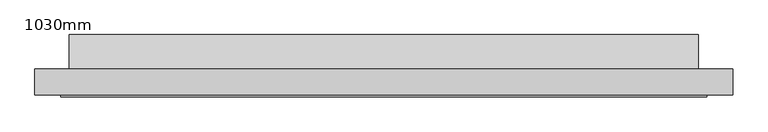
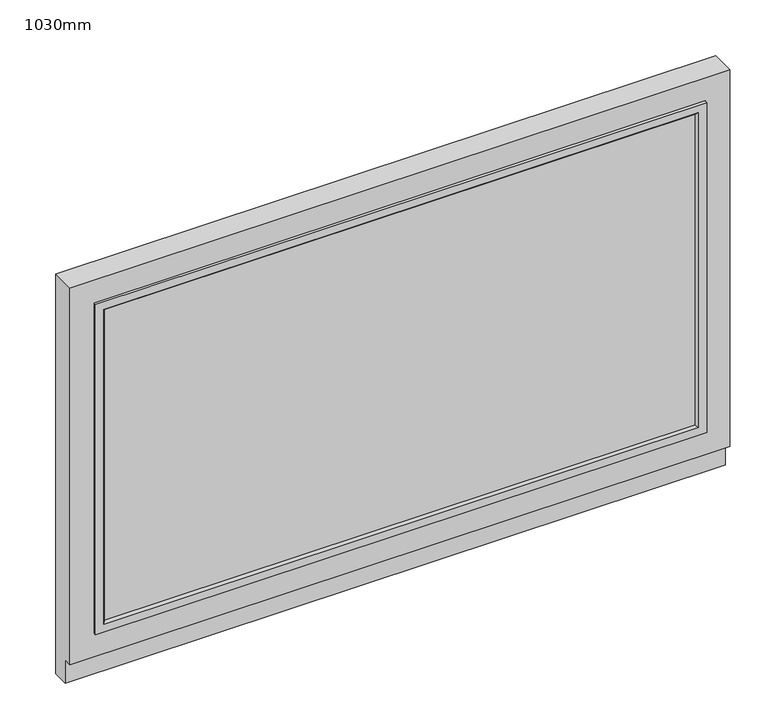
"""IFC4 building model written with IfcOpenShell, lengths in millimetres: proxy geometry, 電視 (2)-電漿 : 1030mm."""

from ifc_helpers import new_model, si_unit, frame, origin, place, context, project, spatial, polyline, outline, extrude, faceted_brep, source, transform, mapped, element, save


def proxy_1030mm_ae075e29(model_context):
    return source(origin(), model_context, "Body", "SolidModel", [
        faceted_brep([(572.15, -50.9, 660.0), (-457.85, -50.9, 660.0), (-457.85, -89.0, 660.0), (572.15, -89.0, 660.0), (-457.85, -50.9, 0.0), (572.15, -50.9, 0.0), (572.15, -76.3, 0.0), (-457.85, -76.3, 0.0), (-457.85, -76.3, 38.1), (-457.85, -89.0, 38.1), (572.15, -89.0, 38.1), (534.05, -89.0, 621.9), (534.05, -89.0, 76.2), (-419.75, -89.0, 76.2), (-419.75, -89.0, 621.9), (572.15, -76.3, 38.1), (534.05, -74.2720413, 621.9), (-419.75, -74.2720413, 621.9), (-419.75, -74.2720413, 76.2), (534.05, -74.2720413, 76.2)], [[[0, 1, 2, 3]], [[4, 5, 6, 7]], [[1, 0, 5, 4]], [[2, 1, 4, 7, 8, 9]], [[3, 2, 9, 10], [11, 12, 13, 14]], [[0, 3, 10, 15, 6, 5]], [[16, 17, 18, 19]], [[16, 19, 12, 11]], [[19, 18, 13, 12]], [[18, 17, 14, 13]], [[17, 16, 11, 14]], [[15, 8, 7, 6]], [[8, 15, 10, 9]]]),
        faceted_brep([(518.175, -89.0, 92.075), (521.35, -92.175, 88.9), (521.35, -92.175, 608.40625), (518.175, -89.0, 605.23125), (521.35, -74.2720413, 88.9), (521.35, -89.0, 88.9), (521.35, -89.0, 608.40625), (521.35, -74.2720413, 608.40625), (534.05, -92.175, 76.2), (534.05, -74.2720413, 76.2), (534.05, -74.2720413, 621.10625), (534.05, -92.175, 621.10625), (-407.05, -92.175, 608.40625), (-403.875, -89.0, 605.23125), (-407.05, -89.0, 608.40625), (-407.05, -74.2720413, 608.40625), (-419.75, -74.2720413, 621.10625), (-419.75, -92.175, 621.10625), (-407.05, -92.175, 88.9), (-403.875, -89.0, 92.075), (-407.05, -89.0, 88.9), (-407.05, -74.2720413, 88.9), (-419.75, -74.2720413, 76.2), (-419.75, -92.175, 76.2)], [[[0, 1, 2, 3]], [[4, 5, 6, 7]], [[8, 9, 10, 11]], [[3, 2, 12, 13]], [[7, 6, 14, 15]], [[11, 10, 16, 17]], [[13, 12, 18, 19]], [[15, 14, 20, 21]], [[17, 16, 22, 23]], [[11, 17, 23, 8], [1, 18, 12, 2]], [[19, 18, 1, 0]], [[5, 20, 14, 6], [3, 13, 19, 0]], [[21, 20, 5, 4]], [[9, 22, 16, 10], [7, 15, 21, 4]], [[23, 22, 9, 8]]]),
        extrude(outline(polyline([(521.35, -89.0), (-407.05, -89.0), (-407.05, -74.2720413), (521.35, -74.2720413), (521.35, -89.0)])), frame((0.0, 0.0, 88.9), z_axis=(0.0, 0.0, 1.0), x_axis=(1.0, 0.0, 0.0)), (0.0, 0.0, 1.0), 520.3),
        extrude(outline(polyline([(0.0, 574.4688953), (0.0, 38.1), (-50.9, 38.1), (-50.9, 609.2), (0.0, 574.4688953)])), frame((-407.05, 0.0, 0.0), z_axis=(1.0, 0.0, 0.0), x_axis=(0.0, 1.0, 0.0)), (0.0, 0.0, 1.0), 928.4),
    ])


if __name__ == "__main__":
    model = new_model("IFC4")
    model_context = context("Model", 3, world=origin())
    ifc_project = project(units=[si_unit("LENGTHUNIT", "METRE", prefix="MILLI")], contexts=[model_context])
    site = spatial("IfcSite", under=ifc_project)
    building = spatial("IfcBuilding", under=site)
    placement = place(None, origin())
    proxy_1030mm_shape = proxy_1030mm_ae075e29(model_context)
    element("IfcBuildingElementProxy", 1, Name="電視 (2)-電漿 : 1030mm", ObjectType="電視 (2)-電漿 : 1030mm", at=placement, inside=building, context=model_context, shape_type="MappedRepresentation", body=[
        mapped(proxy_1030mm_shape, transform((0.0, 0.0, 0.0), x_axis=(1.0, 0.0, 0.0), y_axis=(0.0, 1.0, 0.0), z_axis=(0.0, 0.0, 1.0))),
    ])
    save(model, "model.ifc")
